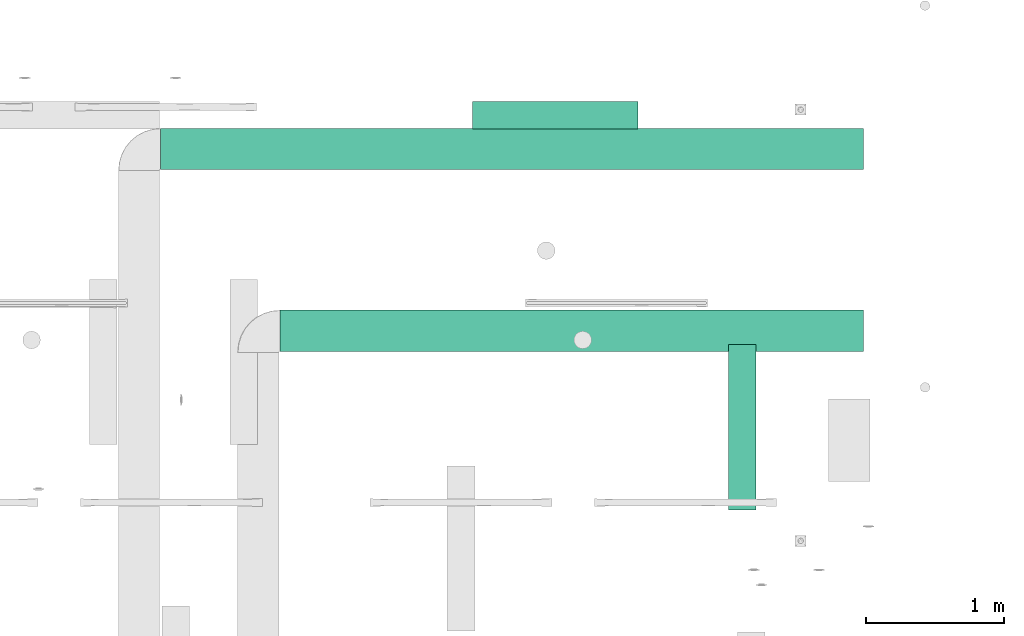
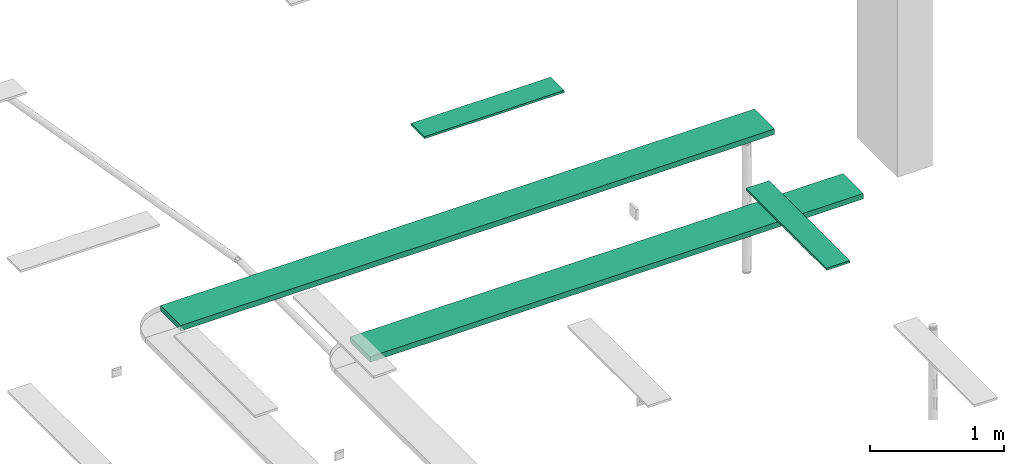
# One storey, part 6 of 153: 2 flow segments, 2 flow terminals.
"""IFC2X3 building model written with IfcOpenShell, lengths in metres."""

from ifc_helpers import new_model, entity, si_unit, converted_unit, derived_unit, direction, frame, frame_2d, origin, origin_2d_with_axis, place, context, subcontext, project, spatial, rectangle, extrude, source, transform, mapped, type_object, type_shapes, element, save


model = new_model("IFC2X3")

# Units and contexts
model_context = context("Model", 3, precision=1e-05, world=origin(), true_north=direction((6.12303176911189e-17, 1.0)))
body_context = subcontext(model_context, "Body", "Model", "MODEL_VIEW")
ifc_project = project(units=[si_unit("LENGTHUNIT", "METRE"), si_unit("AREAUNIT", "SQUARE_METRE"), si_unit("VOLUMEUNIT", "CUBIC_METRE"), converted_unit("PLANEANGLEUNIT", "DEGREE", entity("IfcRatioMeasure", 0.0174532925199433), si_unit("PLANEANGLEUNIT", "RADIAN"), dimensions=[0, 0, 0, 0, 0, 0, 0]), si_unit("MASSUNIT", "GRAM", prefix="KILO"), derived_unit("MASSDENSITYUNIT", [(si_unit("MASSUNIT", "GRAM", prefix="KILO"), 1), (si_unit("LENGTHUNIT", "METRE"), -3)]), si_unit("TIMEUNIT", "SECOND"), si_unit("FREQUENCYUNIT", "HERTZ"), si_unit("THERMODYNAMICTEMPERATUREUNIT", "DEGREE_CELSIUS"), derived_unit("THERMALTRANSMITTANCEUNIT", [(si_unit("MASSUNIT", "GRAM", prefix="KILO"), 1), (si_unit("THERMODYNAMICTEMPERATUREUNIT", "KELVIN"), -1), (si_unit("TIMEUNIT", "SECOND"), -3)]), derived_unit("VOLUMETRICFLOWRATEUNIT", [(si_unit("LENGTHUNIT", "METRE"), 3), (si_unit("TIMEUNIT", "SECOND"), -1)]), si_unit("ELECTRICCURRENTUNIT", "AMPERE"), si_unit("ELECTRICVOLTAGEUNIT", "VOLT"), si_unit("POWERUNIT", "WATT"), si_unit("FORCEUNIT", "NEWTON"), si_unit("ILLUMINANCEUNIT", "LUX"), si_unit("LUMINOUSFLUXUNIT", "LUMEN"), si_unit("LUMINOUSINTENSITYUNIT", "CANDELA"), derived_unit("USERDEFINED", [(si_unit("MASSUNIT", "GRAM", prefix="KILO"), -1), (si_unit("LENGTHUNIT", "METRE"), -2), (si_unit("TIMEUNIT", "SECOND"), 3), (si_unit("LUMINOUSFLUXUNIT", "LUMEN"), 1)]), derived_unit("LINEARVELOCITYUNIT", [(si_unit("LENGTHUNIT", "METRE"), 1), (si_unit("TIMEUNIT", "SECOND"), -1)]), si_unit("PRESSUREUNIT", "PASCAL"), derived_unit("USERDEFINED", [(si_unit("LENGTHUNIT", "METRE"), -2), (si_unit("MASSUNIT", "GRAM", prefix="KILO"), 1), (si_unit("TIMEUNIT", "SECOND"), -2)])], contexts=[model_context])

# Site, building, storey
site_placement = place(None, origin())
site = spatial("IfcSite", under=ifc_project, at=site_placement, Name="Default", CompositionType="ELEMENT")
building_placement = place(site_placement, origin())
building = spatial("IfcBuilding", under=site, at=building_placement, CompositionType="ELEMENT")
storey_placement = place(building_placement, frame((0.0, 0.0, -4.62)))
storey = spatial("IfcBuildingStorey", under=building, at=storey_placement, Name="S02", CompositionType="ELEMENT", Elevation=-4.62)

# Flow segments
cable_carrier_segment_type = type_object("IfcCableCarrierSegmentType", Name="Cable Tray with Fittings:Chemins de câbles en treillis_Chemins de câbles en treillis", PredefinedType="NOTDEFINED")
flow_segment_1_placement = place(storey_placement, origin())
element("IfcFlowSegment", 1, at=flow_segment_1_placement, inside=storey, type_object=cable_carrier_segment_type, Name="Cable Tray with Fittings:Chemins de câbles en treillis_Chemins de câbles en treillis", ObjectType="Cable Tray with Fittings:Chemins de câbles en treillis_Chemins de câbles en treillis", context=body_context, shape_type="SweptSolid", body=[
    extrude(rectangle(XDim=5.1007900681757, YDim=0.300000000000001, at=origin_2d_with_axis()), frame((38.9400392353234, -188.090614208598, 3.55000315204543)), (0.0, 0.0, 1.0), 0.0500000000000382),
])
flow_segment_2_placement = place(storey_placement, origin())
element("IfcFlowSegment", 2, at=flow_segment_2_placement, inside=storey, type_object=cable_carrier_segment_type, Name="Cable Tray with Fittings:Chemins de câbles en treillis_Chemins de câbles en treillis", ObjectType="Cable Tray with Fittings:Chemins de câbles en treillis_Chemins de câbles en treillis", context=body_context, shape_type="SweptSolid", body=[
    extrude(rectangle(XDim=4.23501482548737, YDim=0.300000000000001, at=frame_2d((2.22044604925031e-15, 0.0), x_axis=(1.0, 0.0))), frame((39.3729268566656, -189.410389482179, 3.764)), (0.0, 0.0, 1.0), 0.05),
])

# Flow terminals
light_fixture_type = type_object("IfcLightFixtureType", Name="B_Réglete étanche", PredefinedType="NOTDEFINED")
shared_shape = source(origin(), body_context, "Body", "SweptSolid", [
    extrude(rectangle(XDim=0.199999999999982, YDim=1.2, at=origin_2d_with_axis()), frame((0.0, 0.0, 0.0), z_axis=(0.0, 0.0, 1.0), x_axis=(0.0, 1.0, 0.0)), (0.0, 0.0, 1.0), 0.02),
])
type_shapes(light_fixture_type, [shared_shape])
for number, where, z_axis, x_axis in (
    (3, (39.2527256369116, -187.847296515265, 4.345), (0.0, 0.0, -1.0), (-1.0, 0.0, 0.0)),
    (4, (40.6102323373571, -190.110621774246, 4.175), (0.0, 0.0, -1.0), (0.0, -1.0, 0.0)),
):
    element("IfcFlowTerminal", number, at=place(storey_placement, frame(where, z_axis=z_axis, x_axis=x_axis)), inside=storey, type_object=light_fixture_type, Name="II_PREF_Type B Réglette étanche:B_Réglete étanche", ObjectType="II_PREF_Type B Réglette étanche:B_Réglete étanche", context=body_context, shape_type="MappedRepresentation", body=[
        mapped(shared_shape, transform((0.0, 0.0, 0.0), scale=1.0)),
    ])

save(model, "model.ifc")
